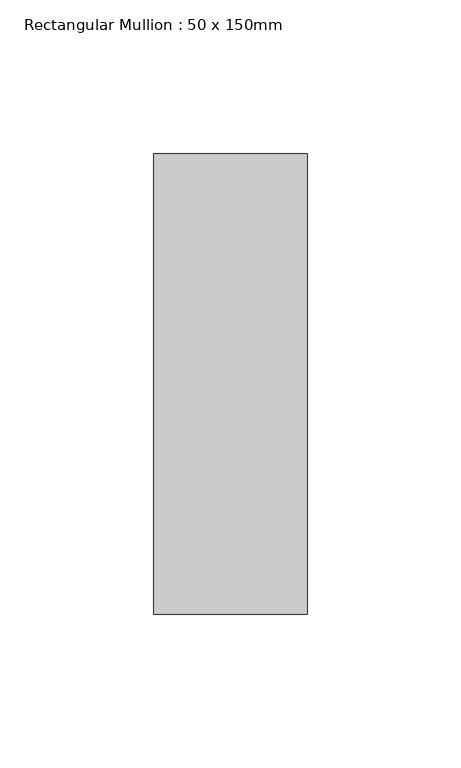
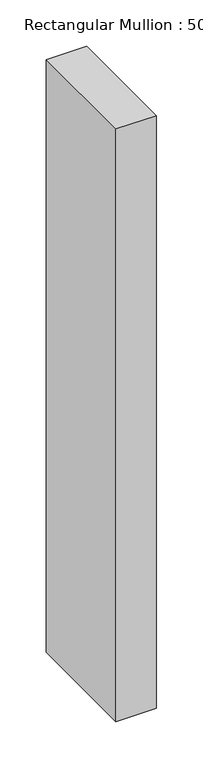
"""IFC4 building model written with IfcOpenShell, lengths in millimetres: member geometry, Rectangular Mullion : 50 x 150mm."""

from ifc_helpers import new_model, si_unit, frame, origin, place, context, project, spatial, polyline, outline, extrude, source, transform, mapped, element, save


def rectangular_mullion_50_x_150mm_e82de0b1(model_context):
    return source(origin(), model_context, "Body", "SweptSolid", [
        extrude(outline(polyline([(0.0, 75.0), (0.0, -75.0), (-50.0, -75.0), (-50.0, 75.0), (0.0, 75.0)])), frame((0.0, 0.0, -779.8293097), z_axis=(0.0, 0.0, 1.0), x_axis=(1.0, 0.0, 0.0)), (0.0, 0.0, 1.0), 779.8293097),
    ])


if __name__ == "__main__":
    model = new_model("IFC4")
    model_context = context("Model", 3, world=origin())
    ifc_project = project(units=[si_unit("LENGTHUNIT", "METRE", prefix="MILLI")], contexts=[model_context])
    site = spatial("IfcSite", under=ifc_project)
    building = spatial("IfcBuilding", under=site)
    placement = place(None, origin())
    rectangular_mullion_50_x_150mm_shape = rectangular_mullion_50_x_150mm_e82de0b1(model_context)
    element("IfcMember", 1, ObjectType="Rectangular Mullion : 50 x 150mm", at=placement, inside=building, context=model_context, shape_type="MappedRepresentation", body=[
        mapped(rectangular_mullion_50_x_150mm_shape, transform((0.0, 0.0, 0.0), x_axis=(1.0, 0.0, 0.0), y_axis=(0.0, 1.0, 0.0), z_axis=(0.0, 0.0, 1.0))),
    ])
    save(model, "model.ifc")
